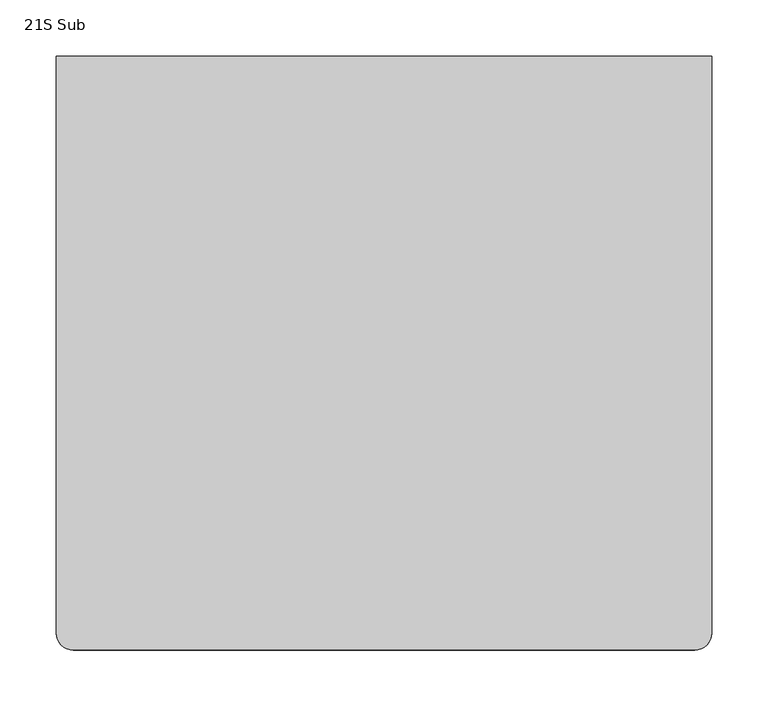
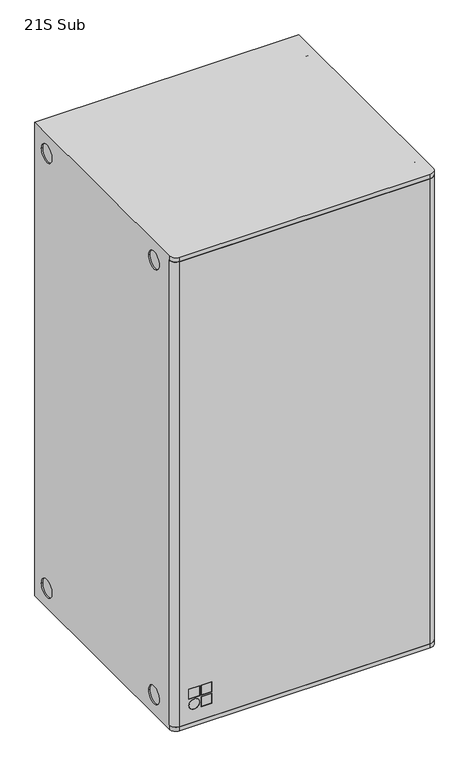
"""IFC4 building model written with IfcOpenShell, lengths in millimetres: proxy geometry, d&b xS-Series 21S Subwoofer : 21S Sub."""

import ifcopenshell
import ifcopenshell.guid

model = None  # the IFC model being written
_history = None  # IfcOwnerHistory: only IFC2X3 demands one
_inside = {}  # id of a spatial element -> (the spatial element, [elements in it])
_under = {}  # id of a project, library or spatial element -> (it, [spatial elements below it])
_declared = {}  # id of a project -> (the project, [libraries it declares])
_typed = {}  # id of a type object -> (the type object, [elements of that type])
_made_of = {}  # id of a material, layer set ... -> (it, [elements and type objects made of it])


def new_model(schema):
    """Start an empty IFC model of exactly this schema.

    Asked for "IFC4X3", IfcOpenShell would pick the latest addendum, in which some entities
    have other attributes; the version numbers below select the first issue.
    IFC2X3 requires an IfcOwnerHistory on every rooted entity: one is made here for all.
    """
    global model, _history
    if schema == "IFC4X3":
        model = ifcopenshell.file(schema_version=(4, 3, 0, 0))
    else:
        model = ifcopenshell.file(schema=schema)
    _inside.clear()
    _under.clear()
    _declared.clear()
    _typed.clear()
    _made_of.clear()
    _history = None
    if model.schema == "IFC2X3":
        org = make("IfcOrganization", Name="unknown")
        user = make(
            "IfcPersonAndOrganization",
            ThePerson=make("IfcPerson", FamilyName="unknown"),
            TheOrganization=org,
        )
        app = make(
            "IfcApplication",
            ApplicationDeveloper=org,
            Version="unknown",
            ApplicationFullName="unknown",
            ApplicationIdentifier="unknown",
        )
        _history = make(
            "IfcOwnerHistory",
            OwningUser=user,
            OwningApplication=app,
            ChangeAction="ADDED",
            CreationDate=0,
        )
    return model


def make(cls, **values):
    """One entity of the class cls with the attributes given. An attribute that is None is left unset."""
    return model.create_entity(
        cls, **{name: value for name, value in values.items() if value is not None}
    )


def rooted(cls, **values):
    """An entity with a GlobalId (a new one), such as an element, a storey or a relation."""
    return make(cls, GlobalId=ifcopenshell.guid.new(), OwnerHistory=_history, **values)


def si_unit(unit_type, name, prefix=None):
    """IfcSIUnit, for example si_unit("LENGTHUNIT", "METRE", prefix="MILLI")."""
    return make("IfcSIUnit", UnitType=unit_type, Prefix=prefix, Name=name)


def assignment(units):
    """IfcUnitAssignment: the units of a project."""
    return None if units is None else make("IfcUnitAssignment", Units=units)


def point(xyz):
    """IfcCartesianPoint."""
    return None if xyz is None else make("IfcCartesianPoint", Coordinates=xyz)


def direction(xyz):
    """IfcDirection."""
    return None if xyz is None else make("IfcDirection", DirectionRatios=xyz)


def frame(location, z_axis=None, x_axis=None):
    """IfcAxis2Placement3D, a coordinate frame: its origin and axes. An axis left out is left unset."""
    return make(
        "IfcAxis2Placement3D",
        Location=point(location),
        Axis=direction(z_axis),
        RefDirection=direction(x_axis),
    )


def frame_2d(location, x_axis=None):
    """IfcAxis2Placement2D, a coordinate frame in the plane: its origin and x axis."""
    return make(
        "IfcAxis2Placement2D", Location=point(location), RefDirection=direction(x_axis)
    )


def origin():
    """The frame at (0, 0, 0) with its axes left unset."""
    return frame((0.0, 0.0, 0.0))


def place(relative_to, where):
    """IfcLocalPlacement: puts the frame where relative to a parent placement (None: the world)."""
    return make(
        "IfcLocalPlacement", PlacementRelTo=relative_to, RelativePlacement=where
    )


def context(
    kind, dimensions, precision=None, world=None, true_north=None, identifier=None
):
    """IfcGeometricRepresentationContext, for example the 3D "Model" context."""
    return make(
        "IfcGeometricRepresentationContext",
        ContextIdentifier=identifier,
        ContextType=kind,
        CoordinateSpaceDimension=dimensions,
        Precision=precision,
        WorldCoordinateSystem=world,
        TrueNorth=true_north,
    )


def project(units=None, contexts=None):
    """IfcProject with its units and contexts."""
    return rooted(
        "IfcProject",
        Name="project",
        RepresentationContexts=contexts,
        UnitsInContext=assignment(units),
    )


def spatial(cls, under=None, at=None, **own):
    """A site, building, storey or space (cls), placed at a placement, below another one or the project."""
    s = rooted(cls, ObjectPlacement=at, **own)
    if under is not None:
        _under.setdefault(under.id(), (under, []))[1].append(s)
    return s


def polyline(points):
    """IfcPolyline through the points."""
    return make("IfcPolyline", Points=[point(p) for p in points])


def circle_curve(where, radius):
    """IfcCircle in the frame where."""
    return make("IfcCircle", Position=where, Radius=radius)


def trimmed(basis, trim1, trim2, sense, master):
    """IfcTrimmedCurve: the piece of a basis curve between two trims."""
    return make(
        "IfcTrimmedCurve",
        BasisCurve=basis,
        Trim1=trim1,
        Trim2=trim2,
        SenseAgreement=sense,
        MasterRepresentation=master,
    )


def segment(curve, same_sense, transition):
    """IfcCompositeCurveSegment."""
    return make(
        "IfcCompositeCurveSegment",
        Transition=transition,
        SameSense=same_sense,
        ParentCurve=curve,
    )


def composite_curve(segments, self_intersect=None):
    """IfcCompositeCurve: segments joined end to end."""
    return make("IfcCompositeCurve", Segments=segments, SelfIntersect=self_intersect)


def outline(outer, holes=None, kind="AREA"):
    """IfcArbitraryClosedProfileDef: a profile drawn as a closed curve; with holes, ...WithVoids."""
    if holes is None:
        return make("IfcArbitraryClosedProfileDef", ProfileType=kind, OuterCurve=outer)
    return make(
        "IfcArbitraryProfileDefWithVoids",
        ProfileType=kind,
        OuterCurve=outer,
        InnerCurves=holes,
    )


def extrude(swept, where, along, depth):
    """IfcExtrudedAreaSolid: the profile swept, set in the frame where, extruded along a direction by depth."""
    return make(
        "IfcExtrudedAreaSolid",
        SweptArea=swept,
        Position=where,
        ExtrudedDirection=direction(along),
        Depth=depth,
    )


def shape(context_of_items, identifier, shape_type, items):
    """IfcShapeRepresentation: the items that make up one representation, for example the "Body"."""
    return make(
        "IfcShapeRepresentation",
        ContextOfItems=context_of_items,
        RepresentationIdentifier=identifier,
        RepresentationType=shape_type,
        Items=items,
    )


def source(mapping_origin, context_of_items, identifier, shape_type, items):
    """IfcRepresentationMap: a shape defined once, which mapped items show again and again."""
    return make(
        "IfcRepresentationMap",
        MappingOrigin=mapping_origin,
        MappedRepresentation=shape(context_of_items, identifier, shape_type, items),
    )


def transform(
    local_origin,
    x_axis=None,
    y_axis=None,
    z_axis=None,
    scale=None,
    scale2=None,
    scale3=None,
    uniform=True,
):
    """IfcCartesianTransformationOperator3D, or its non-uniform kind. x_axis, y_axis, z_axis: its Axis1, 2, 3."""
    if uniform:
        return make(
            "IfcCartesianTransformationOperator3D",
            Axis1=direction(x_axis),
            Axis2=direction(y_axis),
            LocalOrigin=point(local_origin),
            Scale=scale,
            Axis3=direction(z_axis),
        )
    return make(
        "IfcCartesianTransformationOperator3DnonUniform",
        Axis1=direction(x_axis),
        Axis2=direction(y_axis),
        LocalOrigin=point(local_origin),
        Scale=scale,
        Axis3=direction(z_axis),
        Scale2=scale2,
        Scale3=scale3,
    )


def mapped(mapping_source, mapping_target):
    """IfcMappedItem: shows the shape of a source again, moved by a transform."""
    return make(
        "IfcMappedItem", MappingSource=mapping_source, MappingTarget=mapping_target
    )


def made_of(thing, what):
    """Note that an element or type object is made of a material, layer set ...; save() writes the relation."""
    if what is not None:
        _made_of.setdefault(what.id(), (what, []))[1].append(thing)
    return thing


def element(
    cls,
    number,
    at=None,
    inside=None,
    cuts=None,
    type_object=None,
    material=None,
    context=None,
    identifier="Body",
    shape_type=None,
    held_by="IfcProductDefinitionShape",
    body=None,
    shapes=None,
    **own,
):
    """One element of the class cls, such as IfcWall. Its Tag is "e" and its number.

    at: its placement. inside: the storey or other place that contains it. cuts: it is an
    opening in that element (IfcRelVoidsElement). A single representation is given by context,
    identifier, shape_type and body (its items); several are given by shapes. held_by: the class
    of the entity that holds the representations. save() writes the other relations.
    """
    e = rooted(cls, Tag="e%d" % number, ObjectPlacement=at, **own)
    if body is not None:
        shapes = [shape(context, identifier, shape_type, body)]
    if shapes is not None:
        e.Representation = make(held_by, Representations=shapes)
    if inside is not None:
        _inside.setdefault(inside.id(), (inside, []))[1].append(e)
    if cuts is not None:
        rooted(
            "IfcRelVoidsElement", RelatingBuildingElement=cuts, RelatedOpeningElement=e
        )
    if type_object is not None:
        _typed.setdefault(type_object.id(), (type_object, []))[1].append(e)
    return made_of(e, material)


def aggregate(whole, parts):
    """IfcRelAggregates: a whole, such as a stair, and the parts it consists of."""
    return rooted("IfcRelAggregates", RelatingObject=whole, RelatedObjects=parts)


def save(model, path):
    """Write the relations noted so far, then the file.

    IfcRelAggregates (storeys below a building ...), IfcRelContainedInSpatialStructure (elements
    in a storey), IfcRelDefinesByType, IfcRelAssociatesMaterial and IfcRelDeclares: one each for
    every whole, place, type object, material and project.
    """
    for whole, parts in _under.values():
        aggregate(whole, parts)
    for where, things in _inside.values():
        rooted(
            "IfcRelContainedInSpatialStructure",
            RelatedElements=things,
            RelatingStructure=where,
        )
    for kind, things in _typed.values():
        rooted("IfcRelDefinesByType", RelatedObjects=things, RelatingType=kind)
    for what, things in _made_of.values():
        rooted("IfcRelAssociatesMaterial", RelatedObjects=things, RelatingMaterial=what)
    for by, libraries in _declared.values():
        rooted("IfcRelDeclares", RelatingContext=by, RelatedDefinitions=libraries)
    model.write(path)


def plane_surface(at):
    """IfcPlane: the flat surface through the origin of the frame at, square to its z axis."""
    return make("IfcPlane", Position=at)


def cylinder_surface(at, radius):
    """IfcCylindricalSurface: all points at the distance radius from the z axis of the frame at."""
    return make("IfcCylindricalSurface", Position=at, Radius=radius)


def revolved_surface(curve, axis_point, axis_direction):
    """IfcSurfaceOfRevolution: the curve turned about the line through axis_point along axis_direction."""
    return make(
        "IfcSurfaceOfRevolution",
        SweptCurve=make("IfcArbitraryOpenProfileDef", ProfileType="CURVE", Curve=curve),
        AxisPosition=make("IfcAxis1Placement", Location=point(axis_point), Axis=direction(axis_direction)),
    )


def advanced_brep(points, edges, surfaces, faces):
    """IfcAdvancedBrep: a solid bounded by faces that lie on surfaces and meet in shared edges.

    An edge is (start, end): straight between two places in points (the first is 0);
    or (start, end, curve); or (start, end, curve, False) where it runs against its curve.
    A face is (place in surfaces, loops), or (place, loops, False) where it looks against
    its surface's normal. A loop lists edges by number (the first is 1), with a minus sign
    where the edge is run from its end to its start. The first loop is the outer one.
    """
    corners = [point(p) for p in points]
    vertices = [make("IfcVertexPoint", VertexGeometry=c) for c in corners]
    made = []
    for start, end, *more in edges:
        made.append(
            make(
                "IfcEdgeCurve",
                EdgeStart=vertices[start],
                EdgeEnd=vertices[end],
                EdgeGeometry=more[0] if more else make("IfcPolyline", Points=[corners[start], corners[end]]),
                SameSense=more[1] if len(more) > 1 else True,
            )
        )
    hull = []
    for where, loops, *sense in faces:
        bounds = []
        for j, loop in enumerate(loops):
            ring = [make("IfcOrientedEdge", EdgeElement=made[abs(k) - 1], Orientation=k > 0) for k in loop]
            bounds.append(
                make(
                    "IfcFaceOuterBound" if j == 0 else "IfcFaceBound",
                    Bound=make("IfcEdgeLoop", EdgeList=ring),
                    Orientation=True,
                )
            )
        hull.append(make("IfcAdvancedFace", Bounds=bounds, FaceSurface=surfaces[where], SameSense=sense[0] if sense else True))
    return make("IfcAdvancedBrep", Outer=make("IfcClosedShell", CfsFaces=hull))


def proxy_21s_sub_79dd9c0d(model_context):
    return source(origin(), model_context, "Body", "SolidModel", [
        advanced_brep(
        [(-275.0, -304.4505375, -540.0), (-290.0, -289.4505375, -540.0), (-285.0, -289.4505375, -540.0), (-275.0, -299.4505375, -540.0), (275.0, -299.4505375, -540.0), (285.0, -289.4505375, -540.0), (290.0, -289.4505375, -540.0), (275.0, -304.4505375, -540.0), (-275.0, -304.4505375, 540.0), (275.0, -304.4505375, 540.0), (290.0, -289.4505375, 540.0), (285.0, -289.4505375, 540.0), (275.0, -299.4505375, 540.0), (-275.0, -299.4505375, 540.0), (-285.0, -289.4505375, 540.0), (-290.0, -289.4505375, 540.0), (-231.6666667, -304.4505375, -460.0), (-231.6666667, -304.4505375, -483.3333333), (-255.0, -304.4505375, -483.3333333), (-255.0, -304.4505375, -460.0), (-205.0, -304.4505375, -460.0), (-205.0, -304.4505375, -483.3333333), (-228.3333333, -304.4505375, -483.3333333), (-228.3333333, -304.4505375, -460.0), (-205.0, -304.4505375, -486.6666667), (-205.0, -304.4505375, -510.0), (-228.3333333, -304.4505375, -510.0), (-228.3333333, -304.4505375, -486.6666667), (-231.6666667, -304.4505375, -498.3333333), (-255.0, -304.4505375, -498.3333333), (-231.6666667, -299.4505375, -483.3333333), (-231.6666667, -299.4505375, -460.0), (-255.0, -299.4505375, -460.0), (-255.0, -299.4505375, -483.3333333), (-205.0, -299.4505375, -483.3333333), (-205.0, -299.4505375, -460.0), (-228.3333333, -299.4505375, -460.0), (-228.3333333, -299.4505375, -483.3333333), (-205.0, -299.4505375, -510.0), (-205.0, -299.4505375, -486.6666667), (-228.3333333, -299.4505375, -486.6666667), (-228.3333333, -299.4505375, -510.0), (-255.0, -299.4505375, -498.3333333), (-231.6666667, -299.4505375, -498.3333333)],
        [
            (0, 1, circle_curve(frame((-275.0, -289.4505375, -540.0), z_axis=(0.0, 0.0, -1.0), x_axis=(0.0, 1.0, 0.0)), 15.0)),
            (1, 2),
            (2, 3, circle_curve(frame((-275.0, -289.4505375, -540.0), z_axis=(0.0, 0.0, 1.0), x_axis=(0.0, 1.0, 0.0)), 10.0)),
            (3, 4),
            (4, 5, circle_curve(frame((275.0, -289.4505375, -540.0), z_axis=(0.0, 0.0, 1.0), x_axis=(0.0, 1.0, 0.0)), 10.0)),
            (5, 6),
            (6, 7, circle_curve(frame((275.0, -289.4505375, -540.0), z_axis=(0.0, 0.0, -1.0), x_axis=(0.0, 1.0, 0.0)), 15.0)),
            (7, 0),
            (8, 9),
            (9, 10, circle_curve(frame((275.0, -289.4505375, 540.0), z_axis=(0.0, 0.0, 1.0), x_axis=(0.0, 1.0, 0.0)), 15.0)),
            (10, 11),
            (11, 12, circle_curve(frame((275.0, -289.4505375, 540.0), z_axis=(0.0, 0.0, -1.0), x_axis=(0.0, 1.0, 0.0)), 10.0)),
            (12, 13),
            (13, 14, circle_curve(frame((-275.0, -289.4505375, 540.0), z_axis=(0.0, 0.0, -1.0), x_axis=(0.0, 1.0, 0.0)), 10.0)),
            (14, 15),
            (15, 8, circle_curve(frame((-275.0, -289.4505375, 540.0), z_axis=(0.0, 0.0, 1.0), x_axis=(0.0, 1.0, 0.0)), 15.0)),
            (6, 10),
            (9, 7),
            (8, 0),
            (16, 17),
            (17, 18),
            (18, 19),
            (19, 16),
            (20, 21),
            (21, 22),
            (22, 23),
            (23, 20),
            (24, 25),
            (25, 26),
            (26, 27),
            (27, 24),
            (28, 29, circle_curve(frame((-243.3333333, -304.4505375, -498.3333333), z_axis=(0.0, 1.0, 0.0), x_axis=(-1.0, 0.0, 0.0)), 11.6666667)),
            (29, 28, circle_curve(frame((-243.3333333, -304.4505375, -498.3333333), z_axis=(0.0, 1.0, 0.0), x_axis=(-1.0, 0.0, 0.0)), 11.6666667)),
            (15, 1),
            (14, 2),
            (13, 3),
            (12, 4),
            (30, 31),
            (31, 32),
            (32, 33),
            (33, 30),
            (34, 35),
            (35, 36),
            (36, 37),
            (37, 34),
            (38, 39),
            (39, 40),
            (40, 41),
            (41, 38),
            (42, 43, circle_curve(frame((-243.3333333, -299.4505375, -498.3333333), z_axis=(0.0, -1.0, 0.0), x_axis=(-1.0, 0.0, 0.0)), 11.6666667)),
            (43, 42, circle_curve(frame((-243.3333333, -299.4505375, -498.3333333), z_axis=(0.0, -1.0, 0.0), x_axis=(-1.0, 0.0, 0.0)), 11.6666667)),
            (11, 5),
            (16, 31),
            (30, 17),
            (33, 18),
            (32, 19),
            (20, 35),
            (34, 21),
            (37, 22),
            (36, 23),
            (24, 39),
            (38, 25),
            (41, 26),
            (40, 27),
            (28, 43),
            (42, 29),
        ],
        [
            plane_surface(frame((-275.0, -274.4505375, -540.0), z_axis=(0.0, 0.0, -1.0), x_axis=(1.0, 0.0, 0.0))),
            plane_surface(frame((-275.0, -274.4505375, 540.0), z_axis=(0.0, 0.0, 1.0), x_axis=(-1.0, 0.0, 0.0))),
            cylinder_surface(frame((275.0, -289.4505375, 540.0), z_axis=(0.0, 0.0, -1.0), x_axis=(0.0, 1.0, 0.0)), 15.0),
            plane_surface(frame((275.0, -304.4505375, -540.0), z_axis=(0.0, -1.0, 0.0), x_axis=(0.0, 0.0, 1.0))),
            cylinder_surface(frame((-275.0, -289.4505375, 540.0), z_axis=(0.0, 0.0, -1.0), x_axis=(0.0, 1.0, 0.0)), 15.0),
            plane_surface(frame((-290.0, -289.4505375, -540.0), z_axis=(0.0, 1.0, 0.0), x_axis=(0.0, 0.0, 1.0))),
            revolved_surface(polyline([(-275.0, -279.4505375, 540.0), (-275.0, -279.4505375, -540.0)]), (-275.0, -289.4505375, 540.0), (0.0, 0.0, 1.0)),
            plane_surface(frame((-275.0, -299.4505375, -540.0), z_axis=(0.0, 1.0, 0.0), x_axis=(0.0, 0.0, 1.0))),
            revolved_surface(polyline([(275.0, -279.4505375, 540.0), (275.0, -279.4505375, -540.0)]), (275.0, -289.4505375, 540.0), (0.0, 0.0, 1.0)),
            plane_surface(frame((285.0, -289.4505375, -540.0), z_axis=(0.0, 1.0, 0.0), x_axis=(0.0, 0.0, 1.0))),
            plane_surface(frame((-231.6666667, -304.4505375, -483.3333333), z_axis=(-1.0, 0.0, 0.0), x_axis=(0.0, 1.0, 0.0))),
            plane_surface(frame((-255.0, -304.4505375, -483.3333333), z_axis=(0.0, 0.0, 1.0), x_axis=(0.0, 1.0, 0.0))),
            plane_surface(frame((-255.0, -304.4505375, -460.0), z_axis=(1.0, 0.0, 0.0), x_axis=(0.0, 1.0, 0.0))),
            plane_surface(frame((-231.6666667, -304.4505375, -460.0), z_axis=(0.0, 0.0, -1.0), x_axis=(0.0, 1.0, 0.0))),
            plane_surface(frame((-205.0, -304.4505375, -483.3333333), z_axis=(-1.0, 0.0, 0.0), x_axis=(0.0, 1.0, 0.0))),
            plane_surface(frame((-228.3333333, -304.4505375, -483.3333333), z_axis=(0.0, 0.0, 1.0), x_axis=(0.0, 1.0, 0.0))),
            plane_surface(frame((-228.3333333, -304.4505375, -460.0), z_axis=(1.0, 0.0, 0.0), x_axis=(0.0, 1.0, 0.0))),
            plane_surface(frame((-205.0, -304.4505375, -460.0), z_axis=(0.0, 0.0, -1.0), x_axis=(0.0, 1.0, 0.0))),
            plane_surface(frame((-205.0, -304.4505375, -510.0), z_axis=(-1.0, 0.0, 0.0), x_axis=(0.0, 1.0, 0.0))),
            plane_surface(frame((-228.3333333, -304.4505375, -510.0), z_axis=(0.0, 0.0, 1.0), x_axis=(0.0, 1.0, 0.0))),
            plane_surface(frame((-228.3333333, -304.4505375, -486.6666667), z_axis=(1.0, 0.0, 0.0), x_axis=(0.0, 1.0, 0.0))),
            plane_surface(frame((-205.0, -304.4505375, -486.6666667), z_axis=(0.0, 0.0, -1.0), x_axis=(0.0, 1.0, 0.0))),
            revolved_surface(polyline([(-255.0, -304.4505375, -498.3333333), (-255.0, -299.4505375, -498.3333333)]), (-243.3333333, -304.4505375, -498.3333333), (0.0, -1.0, 0.0)),
        ],
        [
            (0, [[1, 2, 3, 4, 5, 6, 7, 8]]),
            (1, [[9, 10, 11, 12, 13, 14, 15, 16]]),
            (2, [[-7, 17, -10, 18]]),
            (3, [[-8, -18, -9, 19], [20, 21, 22, 23], [24, 25, 26, 27], [28, 29, 30, 31], [32, 33]]),
            (4, [[-1, -19, -16, 34]]),
            (5, [[-2, -34, -15, 35]]),
            (6, [[-3, -35, -14, 36]]),
            (7, [[-4, -36, -13, 37], [38, 39, 40, 41], [42, 43, 44, 45], [46, 47, 48, 49], [50, 51]]),
            (8, [[-5, -37, -12, 52]]),
            (9, [[-6, -52, -11, -17]]),
            (10, [[53, -38, 54, -20]]),
            (11, [[-54, -41, 55, -21]]),
            (12, [[-55, -40, 56, -22]]),
            (13, [[-53, -23, -56, -39]]),
            (14, [[57, -42, 58, -24]]),
            (15, [[-58, -45, 59, -25]]),
            (16, [[-59, -44, 60, -26]]),
            (17, [[-57, -27, -60, -43]]),
            (18, [[61, -46, 62, -28]]),
            (19, [[-62, -49, 63, -29]]),
            (20, [[-63, -48, 64, -30]]),
            (21, [[-61, -31, -64, -47]]),
            (22, [[65, -50, 66, -32]]),
            (22, [[-65, -33, -66, -51]]),
        ],
    ),
        extrude(outline(polyline([(-231.6666667, -304.4505375), (-255.0, -304.4505375), (-255.0, -299.4505375), (-231.6666667, -299.4505375), (-231.6666667, -304.4505375)])), frame((0.0, 0.0, -483.3333333), z_axis=(0.0, 0.0, 1.0), x_axis=(1.0, 0.0, 0.0)), (0.0, 0.0, 1.0), 23.3333333),
        extrude(outline(polyline([(-205.0, -304.4505375), (-228.3333333, -304.4505375), (-228.3333333, -299.4505375), (-205.0, -299.4505375), (-205.0, -304.4505375)])), frame((0.0, 0.0, -483.3333333), z_axis=(0.0, 0.0, 1.0), x_axis=(1.0, 0.0, 0.0)), (0.0, 0.0, 1.0), 23.3333333),
        extrude(outline(polyline([(-205.0, -304.4505375), (-228.3333333, -304.4505375), (-228.3333333, -299.4505375), (-205.0, -299.4505375), (-205.0, -304.4505375)])), frame((0.0, 0.0, -510.0), z_axis=(0.0, 0.0, 1.0), x_axis=(1.0, 0.0, 0.0)), (0.0, 0.0, 1.0), 23.3333333),
        extrude(outline(composite_curve([segment(trimmed(circle_curve(frame_2d((-498.3333333, -243.3333333)), 11.6666667), [point((-498.3333333, -231.6666667))], [point((-498.3333333, -255.0))], False, "CARTESIAN"), True, "CONTINUOUS"), segment(trimmed(circle_curve(frame_2d((-498.3333333, -243.3333333)), 11.6666667), [point((-498.3333333, -255.0))], [point((-498.3333333, -231.6666667))], False, "CARTESIAN"), True, "CONTINUOUS")], self_intersect=False)), frame((0.0, -304.4505375, 0.0), z_axis=(0.0, 1.0, 0.0), x_axis=(0.0, 0.0, 1.0)), (0.0, 0.0, 1.0), 5.0),
        advanced_brep(
        [(-290.0, -289.4505375, -540.0), (-290.0, -289.4505375, 540.0), (-290.0, -289.4505375, 550.0), (-290.0, 221.0494625, 550.0), (-290.0, 221.0494625, -550.0), (-290.0, -289.4505375, -550.0), (-290.0, 156.0494625, 505.0), (-290.0, 196.0494625, 505.0), (-290.0, -251.9505375, 505.0), (-290.0, -211.9505375, 505.0), (-290.0, 156.0494625, -505.0), (-290.0, 196.0494625, -505.0), (-290.0, -251.9505375, -505.0), (-290.0, -211.9505375, -505.0), (290.0, 221.0494625, -550.0), (290.0, 221.0494625, 550.0), (-207.5, 221.0494625, 35.0), (-217.5, 221.0494625, 25.0), (-217.5, 221.0494625, -25.0), (-207.5, 221.0494625, -35.0), (-117.5, 221.0494625, -35.0), (-107.5, 221.0494625, -25.0), (-107.5, 221.0494625, 25.0), (-117.5, 221.0494625, 35.0), (290.0, -289.4505375, 540.0), (290.0, -289.4505375, -540.0), (290.0, -289.4505375, -550.0), (290.0, -289.4505375, 550.0), (290.0, 176.0494625, 525.0), (290.0, 176.0494625, 485.0), (290.0, -231.9505375, 525.0), (290.0, -231.9505375, 485.0), (290.0, 176.0494625, -485.0), (290.0, 176.0494625, -525.0), (290.0, -231.9505375, -485.0), (290.0, -231.9505375, -525.0), (285.0, -289.4505375, 540.0), (285.0, -289.4505375, -540.0), (275.0, -299.4505375, 540.0), (275.0, -299.4505375, -540.0), (-275.0, -299.4505375, 540.0), (-275.0, -299.4505375, -540.0), (-285.0, -289.4505375, 540.0), (-285.0, -289.4505375, -540.0), (-275.0, -304.4505375, -540.0), (275.0, -304.4505375, -540.0), (275.0, -304.4505375, -550.0), (-275.0, -304.4505375, -550.0), (-245.0, -251.9505375, -550.0), (-245.0, -211.9505375, -550.0), (-245.0, 156.0494625, -550.0), (-245.0, 196.0494625, -550.0), (245.0, -251.9505375, -550.0), (245.0, -211.9505375, -550.0), (245.0, 156.0494625, -550.0), (245.0, 196.0494625, -550.0), (275.0, -304.4505375, 540.0), (-275.0, -304.4505375, 540.0), (-275.0, -304.4505375, 550.0), (275.0, -304.4505375, 550.0), (-217.5, 218.0494625, 25.0), (-207.5, 218.0494625, 35.0), (-117.5, 218.0494625, 35.0), (-107.5, 218.0494625, 25.0), (-107.5, 218.0494625, -25.0), (-117.5, 218.0494625, -35.0), (-207.5, 218.0494625, -35.0), (-217.5, 218.0494625, -25.0), (-197.5, 218.0494625, -25.0), (-127.5, 218.0494625, -25.0), (-117.5, 218.0494625, -15.0), (-117.5, 218.0494625, 15.0), (-127.5, 218.0494625, 25.0), (-197.5, 218.0494625, 25.0), (-207.5, 218.0494625, 15.0), (-207.5, 218.0494625, -15.0), (-127.5, 208.0494625, 25.0), (-117.5, 208.0494625, 15.0), (-117.5, 208.0494625, -15.0), (-127.5, 208.0494625, -25.0), (-148.7039304, 208.0494625, -25.0), (-148.7039304, 208.0494625, 25.0), (-197.5, 208.0494625, 25.0), (-207.5, 208.0494625, 15.0), (-197.5, 208.0494625, -25.0), (-207.5, 208.0494625, -15.0), (-148.7039304, 173.0494625, -25.0), (-197.5, 173.0494625, -25.0), (-207.5, 173.0494625, -15.0), (-207.5, 173.0494625, 15.0), (-197.5, 173.0494625, 25.0), (-148.7039304, 173.0494625, 25.0), (-287.0, 156.0494625, 505.0), (-287.0, 196.0494625, 505.0), (-287.0, -251.9505375, 505.0), (-287.0, -211.9505375, 505.0), (-287.0, 156.0494625, -505.0), (-287.0, 196.0494625, -505.0), (-287.0, -251.9505375, -505.0), (-287.0, -211.9505375, -505.0), (287.0, 176.0494625, 485.0), (287.0, 176.0494625, 525.0), (287.0, -231.9505375, 485.0), (287.0, -231.9505375, 525.0), (287.0, 176.0494625, -525.0), (287.0, 176.0494625, -485.0), (287.0, -231.9505375, -525.0), (287.0, -231.9505375, -485.0), (-245.0, -251.9505375, -547.0), (-245.0, -211.9505375, -547.0), (-245.0, 156.0494625, -547.0), (-245.0, 196.0494625, -547.0), (245.0, -251.9505375, -547.0), (245.0, -211.9505375, -547.0), (245.0, 156.0494625, -547.0), (245.0, 196.0494625, -547.0)],
        [
            (0, 1),
            (1, 2),
            (2, 3),
            (3, 4),
            (4, 5),
            (5, 0),
            (6, 7, circle_curve(frame((-290.0, 176.0494625, 505.0), z_axis=(1.0, 0.0, 0.0), x_axis=(0.0, 1.0, 0.0)), 20.0)),
            (7, 6, circle_curve(frame((-290.0, 176.0494625, 505.0), z_axis=(1.0, 0.0, 0.0), x_axis=(0.0, 1.0, 0.0)), 20.0)),
            (8, 9, circle_curve(frame((-290.0, -231.9505375, 505.0), z_axis=(1.0, 0.0, 0.0), x_axis=(0.0, 1.0, 0.0)), 20.0)),
            (9, 8, circle_curve(frame((-290.0, -231.9505375, 505.0), z_axis=(1.0, 0.0, 0.0), x_axis=(0.0, 1.0, 0.0)), 20.0)),
            (10, 11, circle_curve(frame((-290.0, 176.0494625, -505.0), z_axis=(1.0, 0.0, 0.0), x_axis=(0.0, 1.0, 0.0)), 20.0)),
            (11, 10, circle_curve(frame((-290.0, 176.0494625, -505.0), z_axis=(1.0, 0.0, 0.0), x_axis=(0.0, 1.0, 0.0)), 20.0)),
            (12, 13, circle_curve(frame((-290.0, -231.9505375, -505.0), z_axis=(1.0, 0.0, 0.0), x_axis=(0.0, 1.0, 0.0)), 20.0)),
            (13, 12, circle_curve(frame((-290.0, -231.9505375, -505.0), z_axis=(1.0, 0.0, 0.0), x_axis=(0.0, 1.0, 0.0)), 20.0)),
            (14, 4),
            (3, 15),
            (15, 14),
            (16, 17, circle_curve(frame((-207.5, 221.0494625, 25.0), z_axis=(0.0, -1.0, 0.0), x_axis=(1.0, 0.0, 0.0)), 10.0)),
            (17, 18),
            (18, 19, circle_curve(frame((-207.5, 221.0494625, -25.0), z_axis=(0.0, -1.0, 0.0), x_axis=(1.0, 0.0, 0.0)), 10.0)),
            (19, 20),
            (20, 21, circle_curve(frame((-117.5, 221.0494625, -25.0), z_axis=(0.0, -1.0, 0.0), x_axis=(1.0, 0.0, 0.0)), 10.0)),
            (21, 22),
            (22, 23, circle_curve(frame((-117.5, 221.0494625, 25.0), z_axis=(0.0, -1.0, 0.0), x_axis=(1.0, 0.0, 0.0)), 10.0)),
            (23, 16),
            (24, 25),
            (25, 26),
            (26, 14),
            (15, 27),
            (27, 24),
            (28, 29, circle_curve(frame((290.0, 176.0494625, 505.0), z_axis=(-1.0, 0.0, 0.0), x_axis=(0.0, 0.0, 1.0)), 20.0)),
            (29, 28, circle_curve(frame((290.0, 176.0494625, 505.0), z_axis=(-1.0, 0.0, 0.0), x_axis=(0.0, 0.0, 1.0)), 20.0)),
            (30, 31, circle_curve(frame((290.0, -231.9505375, 505.0), z_axis=(-1.0, 0.0, 0.0), x_axis=(0.0, 0.0, 1.0)), 20.0)),
            (31, 30, circle_curve(frame((290.0, -231.9505375, 505.0), z_axis=(-1.0, 0.0, 0.0), x_axis=(0.0, 0.0, 1.0)), 20.0)),
            (32, 33, circle_curve(frame((290.0, 176.0494625, -505.0), z_axis=(-1.0, 0.0, 0.0), x_axis=(0.0, 0.0, 1.0)), 20.0)),
            (33, 32, circle_curve(frame((290.0, 176.0494625, -505.0), z_axis=(-1.0, 0.0, 0.0), x_axis=(0.0, 0.0, 1.0)), 20.0)),
            (34, 35, circle_curve(frame((290.0, -231.9505375, -505.0), z_axis=(-1.0, 0.0, 0.0), x_axis=(0.0, 0.0, 1.0)), 20.0)),
            (35, 34, circle_curve(frame((290.0, -231.9505375, -505.0), z_axis=(-1.0, 0.0, 0.0), x_axis=(0.0, 0.0, 1.0)), 20.0)),
            (24, 36),
            (36, 37),
            (37, 25),
            (36, 38, circle_curve(frame((275.0, -289.4505375, 540.0), z_axis=(0.0, 0.0, -1.0), x_axis=(0.0, 1.0, 0.0)), 10.0)),
            (38, 39),
            (39, 37, circle_curve(frame((275.0, -289.4505375, -540.0), z_axis=(0.0, 0.0, 1.0), x_axis=(0.0, 1.0, 0.0)), 10.0)),
            (38, 40),
            (40, 41),
            (41, 39),
            (40, 42, circle_curve(frame((-275.0, -289.4505375, 540.0), z_axis=(0.0, 0.0, -1.0), x_axis=(0.0, 1.0, 0.0)), 10.0)),
            (42, 43),
            (43, 41, circle_curve(frame((-275.0, -289.4505375, -540.0), z_axis=(0.0, 0.0, 1.0), x_axis=(0.0, 1.0, 0.0)), 10.0)),
            (0, 43),
            (42, 1),
            (0, 44, circle_curve(frame((-275.0, -289.4505375, -540.0), z_axis=(0.0, 0.0, 1.0), x_axis=(0.0, 1.0, 0.0)), 15.0)),
            (44, 45),
            (45, 25, circle_curve(frame((275.0, -289.4505375, -540.0), z_axis=(0.0, 0.0, 1.0), x_axis=(0.0, 1.0, 0.0)), 15.0)),
            (26, 46, circle_curve(frame((275.0, -289.4505375, -550.0), z_axis=(0.0, 0.0, -1.0), x_axis=(0.0, 1.0, 0.0)), 15.0)),
            (46, 47),
            (47, 5, circle_curve(frame((-275.0, -289.4505375, -550.0), z_axis=(0.0, 0.0, -1.0), x_axis=(0.0, 1.0, 0.0)), 15.0)),
            (48, 49, circle_curve(frame((-245.0, -231.9505375, -550.0), z_axis=(0.0, 0.0, 1.0), x_axis=(0.0, 1.0, 0.0)), 20.0)),
            (49, 48, circle_curve(frame((-245.0, -231.9505375, -550.0), z_axis=(0.0, 0.0, 1.0), x_axis=(0.0, 1.0, 0.0)), 20.0)),
            (50, 51, circle_curve(frame((-245.0, 176.0494625, -550.0), z_axis=(0.0, 0.0, 1.0), x_axis=(0.0, 1.0, 0.0)), 20.0)),
            (51, 50, circle_curve(frame((-245.0, 176.0494625, -550.0), z_axis=(0.0, 0.0, 1.0), x_axis=(0.0, 1.0, 0.0)), 20.0)),
            (52, 53, circle_curve(frame((245.0, -231.9505375, -550.0), z_axis=(0.0, 0.0, 1.0), x_axis=(0.0, 1.0, 0.0)), 20.0)),
            (53, 52, circle_curve(frame((245.0, -231.9505375, -550.0), z_axis=(0.0, 0.0, 1.0), x_axis=(0.0, 1.0, 0.0)), 20.0)),
            (54, 55, circle_curve(frame((245.0, 176.0494625, -550.0), z_axis=(0.0, 0.0, 1.0), x_axis=(0.0, 1.0, 0.0)), 20.0)),
            (55, 54, circle_curve(frame((245.0, 176.0494625, -550.0), z_axis=(0.0, 0.0, 1.0), x_axis=(0.0, 1.0, 0.0)), 20.0)),
            (45, 46),
            (44, 47),
            (24, 56, circle_curve(frame((275.0, -289.4505375, 540.0), z_axis=(0.0, 0.0, -1.0), x_axis=(0.0, 1.0, 0.0)), 15.0)),
            (56, 57),
            (57, 1, circle_curve(frame((-275.0, -289.4505375, 540.0), z_axis=(0.0, 0.0, -1.0), x_axis=(0.0, 1.0, 0.0)), 15.0)),
            (2, 58, circle_curve(frame((-275.0, -289.4505375, 550.0), z_axis=(0.0, 0.0, 1.0), x_axis=(0.0, 1.0, 0.0)), 15.0)),
            (58, 59),
            (59, 27, circle_curve(frame((275.0, -289.4505375, 550.0), z_axis=(0.0, 0.0, 1.0), x_axis=(0.0, 1.0, 0.0)), 15.0)),
            (59, 56),
            (58, 57),
            (60, 61, circle_curve(frame((-207.5, 218.0494625, 25.0), z_axis=(0.0, 1.0, 0.0), x_axis=(1.0, 0.0, 0.0)), 10.0)),
            (61, 62),
            (62, 63, circle_curve(frame((-117.5, 218.0494625, 25.0), z_axis=(0.0, 1.0, 0.0), x_axis=(1.0, 0.0, 0.0)), 10.0)),
            (63, 64),
            (64, 65, circle_curve(frame((-117.5, 218.0494625, -25.0), z_axis=(0.0, 1.0, 0.0), x_axis=(1.0, 0.0, 0.0)), 10.0)),
            (65, 66),
            (66, 67, circle_curve(frame((-207.5, 218.0494625, -25.0), z_axis=(0.0, 1.0, 0.0), x_axis=(1.0, 0.0, 0.0)), 10.0)),
            (67, 60),
            (68, 69),
            (69, 70, circle_curve(frame((-127.5, 218.0494625, -15.0), z_axis=(0.0, -1.0, 0.0), x_axis=(1.0, 0.0, 0.0)), 10.0)),
            (70, 71),
            (71, 72, circle_curve(frame((-127.5, 218.0494625, 15.0), z_axis=(0.0, -1.0, 0.0), x_axis=(1.0, 0.0, 0.0)), 10.0)),
            (72, 73),
            (73, 74, circle_curve(frame((-197.5, 218.0494625, 15.0), z_axis=(0.0, -1.0, 0.0), x_axis=(1.0, 0.0, 0.0)), 10.0)),
            (74, 75),
            (75, 68, circle_curve(frame((-197.5, 218.0494625, -15.0), z_axis=(0.0, -1.0, 0.0), x_axis=(1.0, 0.0, 0.0)), 10.0)),
            (60, 17),
            (16, 61),
            (23, 62),
            (22, 63),
            (21, 64),
            (20, 65),
            (19, 66),
            (18, 67),
            (76, 77, circle_curve(frame((-127.5, 208.0494625, 15.0), z_axis=(0.0, 1.0, 0.0), x_axis=(1.0, 0.0, 0.0)), 10.0)),
            (77, 78),
            (78, 79, circle_curve(frame((-127.5, 208.0494625, -15.0), z_axis=(0.0, 1.0, 0.0), x_axis=(1.0, 0.0, 0.0)), 10.0)),
            (79, 80),
            (80, 81),
            (81, 76),
            (78, 70),
            (69, 79),
            (77, 71),
            (76, 72),
            (73, 82),
            (82, 83, circle_curve(frame((-197.5, 208.0494625, 15.0), z_axis=(0.0, -1.0, 0.0), x_axis=(1.0, 0.0, 0.0)), 10.0)),
            (83, 74),
            (84, 68),
            (75, 85),
            (85, 84, circle_curve(frame((-197.5, 208.0494625, -15.0), z_axis=(0.0, -1.0, 0.0), x_axis=(1.0, 0.0, 0.0)), 10.0)),
            (86, 87),
            (87, 88, circle_curve(frame((-197.5, 173.0494625, -15.0), z_axis=(0.0, 1.0, 0.0), x_axis=(1.0, 0.0, 0.0)), 10.0)),
            (88, 89),
            (89, 90, circle_curve(frame((-197.5, 173.0494625, 15.0), z_axis=(0.0, 1.0, 0.0), x_axis=(1.0, 0.0, 0.0)), 10.0)),
            (90, 91),
            (91, 86),
            (91, 81),
            (80, 86),
            (84, 87),
            (85, 88),
            (83, 89),
            (82, 90),
            (92, 93, circle_curve(frame((-287.0, 176.0494625, 505.0), z_axis=(-1.0, 0.0, 0.0), x_axis=(0.0, 1.0, 0.0)), 20.0)),
            (93, 92, circle_curve(frame((-287.0, 176.0494625, 505.0), z_axis=(-1.0, 0.0, 0.0), x_axis=(0.0, 1.0, 0.0)), 20.0)),
            (94, 95, circle_curve(frame((-287.0, -231.9505375, 505.0), z_axis=(-1.0, 0.0, 0.0), x_axis=(0.0, 1.0, 0.0)), 20.0)),
            (95, 94, circle_curve(frame((-287.0, -231.9505375, 505.0), z_axis=(-1.0, 0.0, 0.0), x_axis=(0.0, 1.0, 0.0)), 20.0)),
            (96, 97, circle_curve(frame((-287.0, 176.0494625, -505.0), z_axis=(-1.0, 0.0, 0.0), x_axis=(0.0, 1.0, 0.0)), 20.0)),
            (97, 96, circle_curve(frame((-287.0, 176.0494625, -505.0), z_axis=(-1.0, 0.0, 0.0), x_axis=(0.0, 1.0, 0.0)), 20.0)),
            (98, 99, circle_curve(frame((-287.0, -231.9505375, -505.0), z_axis=(-1.0, 0.0, 0.0), x_axis=(0.0, 1.0, 0.0)), 20.0)),
            (99, 98, circle_curve(frame((-287.0, -231.9505375, -505.0), z_axis=(-1.0, 0.0, 0.0), x_axis=(0.0, 1.0, 0.0)), 20.0)),
            (93, 7),
            (6, 92),
            (95, 9),
            (8, 94),
            (97, 11),
            (10, 96),
            (99, 13),
            (12, 98),
            (100, 101, circle_curve(frame((287.0, 176.0494625, 505.0), z_axis=(1.0, 0.0, 0.0), x_axis=(0.0, 0.0, 1.0)), 20.0)),
            (101, 100, circle_curve(frame((287.0, 176.0494625, 505.0), z_axis=(1.0, 0.0, 0.0), x_axis=(0.0, 0.0, 1.0)), 20.0)),
            (102, 103, circle_curve(frame((287.0, -231.9505375, 505.0), z_axis=(1.0, 0.0, 0.0), x_axis=(0.0, 0.0, 1.0)), 20.0)),
            (103, 102, circle_curve(frame((287.0, -231.9505375, 505.0), z_axis=(1.0, 0.0, 0.0), x_axis=(0.0, 0.0, 1.0)), 20.0)),
            (104, 105, circle_curve(frame((287.0, 176.0494625, -505.0), z_axis=(1.0, 0.0, 0.0), x_axis=(0.0, 0.0, 1.0)), 20.0)),
            (105, 104, circle_curve(frame((287.0, 176.0494625, -505.0), z_axis=(1.0, 0.0, 0.0), x_axis=(0.0, 0.0, 1.0)), 20.0)),
            (106, 107, circle_curve(frame((287.0, -231.9505375, -505.0), z_axis=(1.0, 0.0, 0.0), x_axis=(0.0, 0.0, 1.0)), 20.0)),
            (107, 106, circle_curve(frame((287.0, -231.9505375, -505.0), z_axis=(1.0, 0.0, 0.0), x_axis=(0.0, 0.0, 1.0)), 20.0)),
            (100, 29),
            (28, 101),
            (102, 31),
            (30, 103),
            (104, 33),
            (32, 105),
            (106, 35),
            (34, 107),
            (108, 109, circle_curve(frame((-245.0, -231.9505375, -547.0), z_axis=(0.0, 0.0, -1.0), x_axis=(0.0, 1.0, 0.0)), 20.0)),
            (109, 108, circle_curve(frame((-245.0, -231.9505375, -547.0), z_axis=(0.0, 0.0, -1.0), x_axis=(0.0, 1.0, 0.0)), 20.0)),
            (110, 111, circle_curve(frame((-245.0, 176.0494625, -547.0), z_axis=(0.0, 0.0, -1.0), x_axis=(0.0, 1.0, 0.0)), 20.0)),
            (111, 110, circle_curve(frame((-245.0, 176.0494625, -547.0), z_axis=(0.0, 0.0, -1.0), x_axis=(0.0, 1.0, 0.0)), 20.0)),
            (112, 113, circle_curve(frame((245.0, -231.9505375, -547.0), z_axis=(0.0, 0.0, -1.0), x_axis=(0.0, 1.0, 0.0)), 20.0)),
            (113, 112, circle_curve(frame((245.0, -231.9505375, -547.0), z_axis=(0.0, 0.0, -1.0), x_axis=(0.0, 1.0, 0.0)), 20.0)),
            (114, 115, circle_curve(frame((245.0, 176.0494625, -547.0), z_axis=(0.0, 0.0, -1.0), x_axis=(0.0, 1.0, 0.0)), 20.0)),
            (115, 114, circle_curve(frame((245.0, 176.0494625, -547.0), z_axis=(0.0, 0.0, -1.0), x_axis=(0.0, 1.0, 0.0)), 20.0)),
            (109, 49),
            (48, 108),
            (111, 51),
            (50, 110),
            (113, 53),
            (52, 112),
            (115, 55),
            (54, 114),
        ],
        [
            plane_surface(frame((-290.0, -289.4505375, -540.0), z_axis=(-1.0, 0.0, 0.0), x_axis=(0.0, 0.0, 1.0))),
            plane_surface(frame((-290.0, 221.0494625, -540.0), z_axis=(0.0, 1.0, 0.0), x_axis=(0.0, 0.0, 1.0))),
            plane_surface(frame((290.0, 221.0494625, -540.0), z_axis=(1.0, 0.0, 0.0), x_axis=(0.0, 0.0, 1.0))),
            plane_surface(frame((290.0, -289.4505375, -540.0), z_axis=(0.0, -1.0, 0.0), x_axis=(0.0, 0.0, 1.0))),
            cylinder_surface(frame((275.0, -289.4505375, 540.0), z_axis=(0.0, 0.0, -1.0), x_axis=(0.0, 1.0, 0.0)), 10.0),
            plane_surface(frame((275.0, -299.4505375, -540.0), z_axis=(0.0, -1.0, 0.0), x_axis=(0.0, 0.0, 1.0))),
            cylinder_surface(frame((-275.0, -289.4505375, 540.0), z_axis=(0.0, 0.0, -1.0), x_axis=(0.0, 1.0, 0.0)), 10.0),
            plane_surface(frame((-285.0, -289.4505375, -540.0), z_axis=(0.0, -1.0, 0.0), x_axis=(0.0, 0.0, 1.0))),
            plane_surface(frame((290.0, 136.7994625, -540.0), z_axis=(0.0, 0.0, 1.0), x_axis=(0.0, 1.0, 0.0))),
            plane_surface(frame((290.0, 136.7994625, -550.0), z_axis=(0.0, 0.0, -1.0), x_axis=(0.0, -1.0, 0.0))),
            cylinder_surface(frame((275.0, -289.4505375, -550.0), z_axis=(0.0, 0.0, 1.0), x_axis=(0.0, 1.0, 0.0)), 15.0),
            plane_surface(frame((-275.0, -304.4505375, -540.0), z_axis=(0.0, -1.0, 0.0), x_axis=(0.0, 0.0, -1.0))),
            cylinder_surface(frame((-275.0, -289.4505375, -550.0), z_axis=(0.0, 0.0, 1.0), x_axis=(0.0, 1.0, 0.0)), 15.0),
            plane_surface(frame((275.0, -274.4505375, 540.0), z_axis=(0.0, 0.0, -1.0), x_axis=(1.0, 0.0, 0.0))),
            plane_surface(frame((275.0, -274.4505375, 550.0), z_axis=(0.0, 0.0, 1.0), x_axis=(-1.0, 0.0, 0.0))),
            cylinder_surface(frame((275.0, -289.4505375, 550.0), z_axis=(0.0, 0.0, -1.0), x_axis=(0.0, 1.0, 0.0)), 15.0),
            plane_surface(frame((275.0, -304.4505375, 540.0), z_axis=(0.0, -1.0, 0.0), x_axis=(0.0, 0.0, 1.0))),
            cylinder_surface(frame((-275.0, -289.4505375, 550.0), z_axis=(0.0, 0.0, -1.0), x_axis=(0.0, 1.0, 0.0)), 15.0),
            plane_surface(frame((-197.5, 218.0494625, 25.0), z_axis=(0.0, 1.0, 0.0), x_axis=(0.0, 0.0, 1.0))),
            revolved_surface(polyline([(-197.5, 221.0494625, 25.0), (-197.5, 218.0494625, 25.0)]), (-207.5, 218.0494625, 25.0), (0.0, 1.0, 0.0)),
            plane_surface(frame((-207.5, 221.0494625, 35.0), z_axis=(0.0, 0.0, -1.0), x_axis=(0.0, -1.0, 0.0))),
            revolved_surface(polyline([(-107.5, 221.0494625, 25.0), (-107.5, 218.0494625, 25.0)]), (-117.5, 218.0494625, 25.0), (0.0, 1.0, 0.0)),
            plane_surface(frame((-107.5, 221.0494625, 25.0), z_axis=(-1.0, 0.0, 0.0), x_axis=(0.0, -1.0, 0.0))),
            revolved_surface(polyline([(-107.5, 221.0494625, -25.0), (-107.5, 218.0494625, -25.0)]), (-117.5, 218.0494625, -25.0), (0.0, 1.0, 0.0)),
            plane_surface(frame((-117.5, 221.0494625, -35.0), z_axis=(0.0, 0.0, 1.0), x_axis=(0.0, -1.0, 0.0))),
            revolved_surface(polyline([(-197.5, 221.0494625, -25.0), (-197.5, 218.0494625, -25.0)]), (-207.5, 218.0494625, -25.0), (0.0, 1.0, 0.0)),
            plane_surface(frame((-217.5, 221.0494625, -25.0), z_axis=(1.0, 0.0, 0.0), x_axis=(0.0, -1.0, 0.0))),
            plane_surface(frame((-187.5, 208.0494625, -15.0), z_axis=(0.0, 1.0, 0.0), x_axis=(0.0, 0.0, 1.0))),
            revolved_surface(polyline([(-117.5, 218.0494625, -15.0), (-117.5, 208.0494625, -15.0)]), (-127.5, 208.0494625, -15.0), (0.0, 1.0, 0.0)),
            plane_surface(frame((-117.5, 218.0494625, 15.0), z_axis=(-1.0, 0.0, 0.0), x_axis=(0.0, -1.0, 0.0))),
            revolved_surface(polyline([(-117.5, 218.0494625, 15.0), (-117.5, 208.0494625, 15.0)]), (-127.5, 208.0494625, 15.0), (0.0, 1.0, 0.0)),
            revolved_surface(polyline([(-187.5, 218.0494625, 15.0), (-187.5, 208.0494625, 15.0)]), (-197.5, 208.0494625, 15.0), (0.0, 1.0, 0.0)),
            revolved_surface(polyline([(-187.5, 218.0494625, -15.0), (-187.5, 208.0494625, -15.0)]), (-197.5, 208.0494625, -15.0), (0.0, 1.0, 0.0)),
            plane_surface(frame((-197.5, 173.0494625, -25.0), z_axis=(0.0, 1.0, 0.0), x_axis=(1.0, 0.0, 0.0))),
            plane_surface(frame((-148.7039304, 208.0494625, 25.0), z_axis=(-1.0, 0.0, 0.0), x_axis=(0.0, -1.0, 0.0))),
            plane_surface(frame((-148.7039304, 208.0494625, -25.0), z_axis=(0.0, 0.0, 1.0), x_axis=(0.0, -1.0, 0.0))),
            revolved_surface(polyline([(-187.5, 208.0494625, -15.0), (-187.5, 173.0494625, -15.0)]), (-197.5, 173.0494625, -15.0), (0.0, 1.0, 0.0)),
            plane_surface(frame((-207.5, 208.0494625, -15.0), z_axis=(1.0, 0.0, 0.0), x_axis=(0.0, -1.0, 0.0))),
            revolved_surface(polyline([(-187.5, 208.0494625, 15.0), (-187.5, 173.0494625, 15.0)]), (-197.5, 173.0494625, 15.0), (0.0, 1.0, 0.0)),
            plane_surface(frame((-197.5, 208.0494625, 25.0), z_axis=(0.0, 0.0, -1.0), x_axis=(0.0, -1.0, 0.0))),
            plane_surface(frame((-287.0, 196.0494625, 505.0), z_axis=(-1.0, 0.0, 0.0), x_axis=(0.0, 0.0, 1.0))),
            revolved_surface(polyline([(-287.0, 196.0494625, 505.0), (-290.0, 196.0494625, 505.0)]), (-290.0, 176.0494625, 505.0), (1.0, 0.0, 0.0)),
            revolved_surface(polyline([(-287.0, -211.9505375, 505.0), (-290.0, -211.9505375, 505.0)]), (-258.0, -231.9505375, 505.0), (1.0, 0.0, 0.0)),
            revolved_surface(polyline([(-287.0, 196.0494625, -505.0), (-290.0, 196.0494625, -505.0)]), (-258.0, 176.0494625, -505.0), (1.0, 0.0, 0.0)),
            revolved_surface(polyline([(-287.0, -211.9505375, -505.0), (-290.0, -211.9505375, -505.0)]), (-258.0, -231.9505375, -505.0), (1.0, 0.0, 0.0)),
            plane_surface(frame((287.0, 176.0494625, 525.0), z_axis=(1.0, 0.0, 0.0), x_axis=(0.0, 1.0, 0.0))),
            revolved_surface(polyline([(290.0, 176.0494625, 525.0), (287.0, 176.0494625, 525.0)]), (287.0, 176.0494625, 505.0), (1.0, 0.0, 0.0)),
            revolved_surface(polyline([(290.0, -231.9505375, 525.0), (287.0, -231.9505375, 525.0)]), (319.0, -231.9505375, 505.0), (1.0, 0.0, 0.0)),
            revolved_surface(polyline([(290.0, 176.0494625, -485.0), (287.0, 176.0494625, -485.0)]), (319.0, 176.0494625, -505.0), (1.0, 0.0, 0.0)),
            revolved_surface(polyline([(290.0, -231.9505375, -485.0), (287.0, -231.9505375, -485.0)]), (319.0, -231.9505375, -505.0), (1.0, 0.0, 0.0)),
            plane_surface(frame((-245.0, -211.9505375, -547.0), z_axis=(0.0, 0.0, -1.0), x_axis=(-1.0, 0.0, 0.0))),
            revolved_surface(polyline([(-245.0, -211.9505375, -547.0), (-245.0, -211.9505375, -550.0)]), (-245.0, -231.9505375, -550.0), (0.0, 0.0, 1.0)),
            revolved_surface(polyline([(-245.0, 196.0494625, -547.0), (-245.0, 196.0494625, -550.0)]), (-245.0, 176.0494625, -550.0), (0.0, 0.0, 1.0)),
            revolved_surface(polyline([(245.0, -211.9505375, -547.0), (245.0, -211.9505375, -550.0)]), (245.0, -231.9505375, -550.0), (0.0, 0.0, 1.0)),
            revolved_surface(polyline([(245.0, 196.0494625, -547.0), (245.0, 196.0494625, -550.0)]), (245.0, 176.0494625, -550.0), (0.0, 0.0, 1.0)),
        ],
        [
            (0, [[1, 2, 3, 4, 5, 6], [7, 8], [9, 10], [11, 12], [13, 14]]),
            (1, [[15, -4, 16, 17], [18, 19, 20, 21, 22, 23, 24, 25]]),
            (2, [[26, 27, 28, -17, 29, 30], [31, 32], [33, 34], [35, 36], [37, 38]]),
            (3, [[-26, 39, 40, 41]]),
            (4, [[-40, 42, 43, 44]]),
            (5, [[-43, 45, 46, 47]]),
            (6, [[-46, 48, 49, 50]]),
            (7, [[-1, 51, -49, 52]]),
            (8, [[53, 54, 55, -41, -44, -47, -50, -51]]),
            (9, [[56, 57, 58, -5, -15, -28], [59, 60], [61, 62], [63, 64], [65, 66]]),
            (10, [[-55, 67, -56, -27]]),
            (11, [[-54, 68, -57, -67]]),
            (12, [[-53, -6, -58, -68]]),
            (13, [[69, 70, 71, -52, -48, -45, -42, -39]]),
            (14, [[-29, -16, -3, 72, 73, 74]]),
            (15, [[-69, -30, -74, 75]]),
            (16, [[-70, -75, -73, 76]]),
            (17, [[-71, -76, -72, -2]]),
            (18, [[77, 78, 79, 80, 81, 82, 83, 84], [85, 86, 87, 88, 89, 90, 91, 92]]),
            (19, [[-77, 93, -18, 94]]),
            (20, [[-78, -94, -25, 95]]),
            (21, [[-79, -95, -24, 96]]),
            (22, [[-80, -96, -23, 97]]),
            (23, [[-81, -97, -22, 98]]),
            (24, [[-82, -98, -21, 99]]),
            (25, [[-83, -99, -20, 100]]),
            (26, [[-84, -100, -19, -93]]),
            (27, [[101, 102, 103, 104, 105, 106]]),
            (28, [[-103, 107, -86, 108]]),
            (29, [[-102, 109, -87, -107]]),
            (30, [[-101, 110, -88, -109]]),
            (31, [[111, 112, 113, -90]]),
            (32, [[114, -92, 115, 116]]),
            (33, [[117, 118, 119, 120, 121, 122]]),
            (34, [[-122, 123, -105, 124]]),
            (35, [[-117, -124, -104, -108, -85, -114, 125]]),
            (36, [[-118, -125, -116, 126]]),
            (37, [[-119, -126, -115, -91, -113, 127]]),
            (38, [[-120, -127, -112, 128]]),
            (39, [[-121, -128, -111, -89, -110, -106, -123]]),
            (40, [[129, 130]]),
            (40, [[131, 132]]),
            (40, [[133, 134]]),
            (40, [[135, 136]]),
            (41, [[-130, 137, -7, 138]]),
            (41, [[-129, -138, -8, -137]]),
            (42, [[-132, 139, -9, 140]]),
            (42, [[-131, -140, -10, -139]]),
            (43, [[-134, 141, -11, 142]]),
            (43, [[-133, -142, -12, -141]]),
            (44, [[-136, 143, -13, 144]]),
            (44, [[-135, -144, -14, -143]]),
            (45, [[145, 146]]),
            (45, [[147, 148]]),
            (45, [[149, 150]]),
            (45, [[151, 152]]),
            (46, [[-145, 153, -31, 154]]),
            (46, [[-146, -154, -32, -153]]),
            (47, [[-147, 155, -33, 156]]),
            (47, [[-148, -156, -34, -155]]),
            (48, [[-149, 157, -35, 158]]),
            (48, [[-150, -158, -36, -157]]),
            (49, [[-151, 159, -37, 160]]),
            (49, [[-152, -160, -38, -159]]),
            (50, [[161, 162]]),
            (50, [[163, 164]]),
            (50, [[165, 166]]),
            (50, [[167, 168]]),
            (51, [[-162, 169, -59, 170]]),
            (51, [[-161, -170, -60, -169]]),
            (52, [[-164, 171, -61, 172]]),
            (52, [[-163, -172, -62, -171]]),
            (53, [[-166, 173, -63, 174]]),
            (53, [[-165, -174, -64, -173]]),
            (54, [[-168, 175, -65, 176]]),
            (54, [[-167, -176, -66, -175]]),
        ],
    ),
    ])


if __name__ == "__main__":
    model = new_model("IFC4")
    model_context = context("Model", 3, world=origin())
    ifc_project = project(units=[si_unit("LENGTHUNIT", "METRE", prefix="MILLI")], contexts=[model_context])
    site = spatial("IfcSite", under=ifc_project)
    building = spatial("IfcBuilding", under=site)
    placement = place(None, origin())
    proxy_21s_sub_shape = proxy_21s_sub_79dd9c0d(model_context)
    element("IfcBuildingElementProxy", 1, Name="d&b xS-Series 21S Subwoofer : 21S Sub", ObjectType="d&b xS-Series 21S Subwoofer : 21S Sub", at=placement, inside=building, context=model_context, shape_type="MappedRepresentation", body=[
        mapped(proxy_21s_sub_shape, transform((0.0, 0.0, 0.0), x_axis=(1.0, 0.0, 0.0), y_axis=(0.0, 1.0, 0.0), z_axis=(0.0, 0.0, 1.0))),
    ])
    save(model, "model.ifc")
